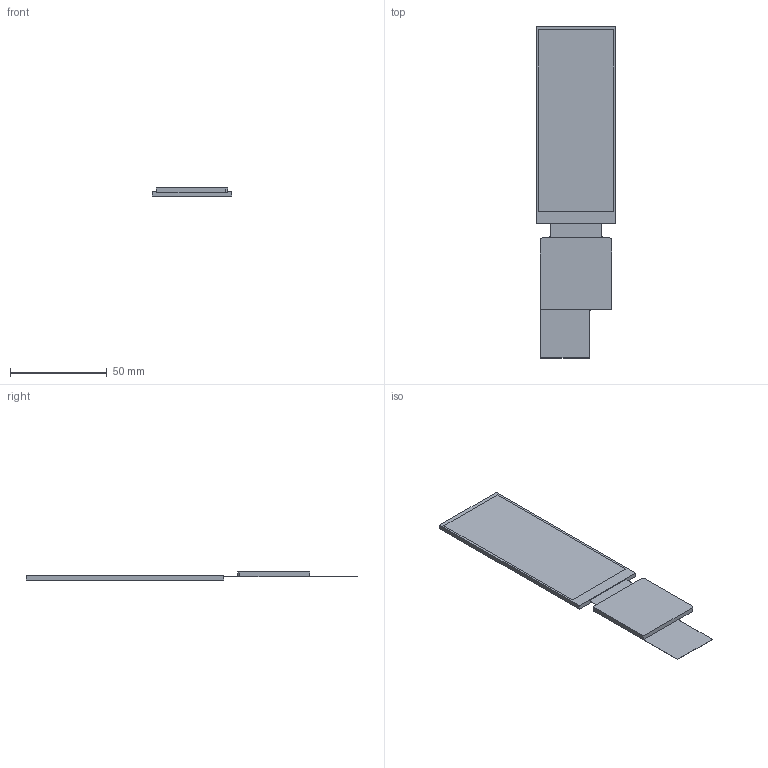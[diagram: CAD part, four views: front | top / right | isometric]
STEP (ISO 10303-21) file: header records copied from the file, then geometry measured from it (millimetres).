
FILE_DESCRIPTION((''),'2;1');
FILE_NAME('DMG40960F040_01WN','2023-06-13T',('Administrator'),(''),'PRO/ENGINEER BY PARAMETRIC TECHNOLOGY CORPORATION, 2008380','PRO/ENGINEER BY PARAMETRIC TECHNOLOGY CORPORATION, 2008380','');
FILE_SCHEMA(('CONFIG_CONTROL_DESIGN'));
Length unit declared in the file: millimetre
Products named in the file (1): DMG40960F040_01WN
Bounding box: 41.4 x 171.83 x 4.2 mm (x, y, z)
Volume: 13064.2 mm3; surface area: 13892.2 mm2
Topology: 1 solids, 1 shells, 27 faces, 77 edges, 54 vertices
Faces by surface type: plane 19, cylinder 8
Entity records: 962 total; most frequent: CARTESIAN_POINT 155, DIRECTION 149, ORIENTED_EDGE 146, EDGE_CURVE 73, VECTOR 61, LINE 61, VERTEX_POINT 50, AXIS2_PLACEMENT_3D 44
